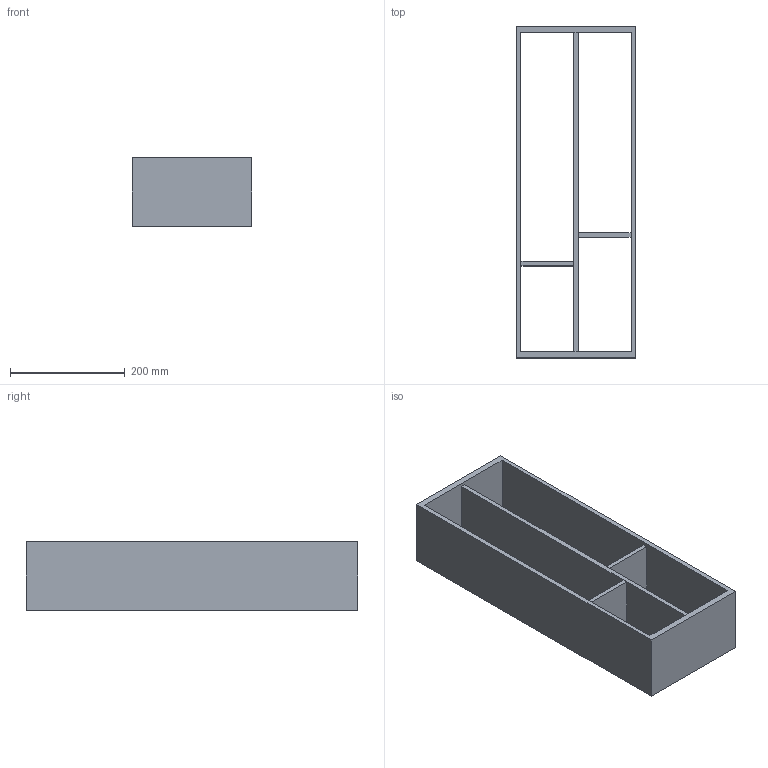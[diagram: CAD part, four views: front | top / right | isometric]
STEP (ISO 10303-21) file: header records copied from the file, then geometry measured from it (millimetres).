
FILE_DESCRIPTION (( 'STEP AP214' ), '1' );
FILE_NAME ('Vario Multi H120 NL600_B300_16 mm_Alu-Buche.step', '2010-10-08T09:47:40', ( 'grass' ), ( '' ), 'SwSTEP 2.0', 'SolidWorks 2010', '' );
FILE_SCHEMA (( 'AUTOMOTIVE_DESIGN' ));
Length unit declared in the file: millimetre
Products named in the file (1): Vario Multi H120 NL600_B300_16 mm_Alu-Buche
Bounding box: 208 x 579 x 120 mm (x, y, z)
Volume: 2294263.3 mm3; surface area: 570926.9 mm2
Topology: 1 solids, 1 shells, 22 faces, 60 edges, 40 vertices
Faces by surface type: plane 22
Entity records: 734 total; most frequent: CARTESIAN_POINT 123, ORIENTED_EDGE 120, DIRECTION 106, EDGE_CURVE 60, LINE 60, VECTOR 60, VERTEX_POINT 40, EDGE_LOOP 30
